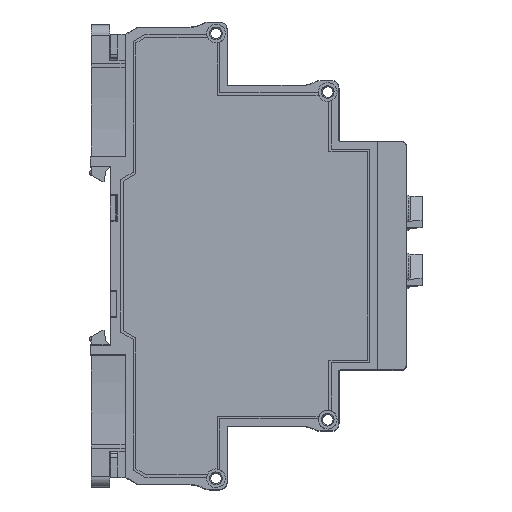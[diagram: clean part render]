
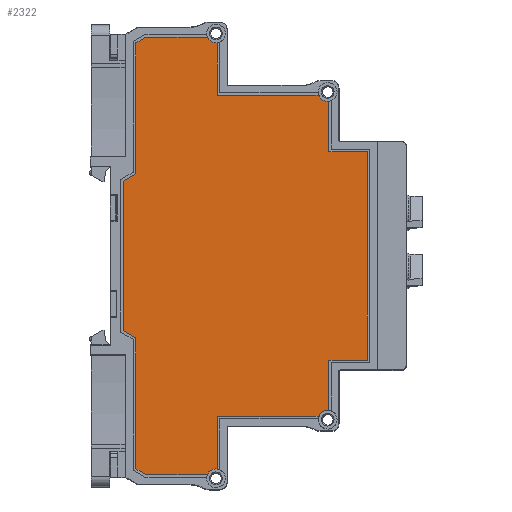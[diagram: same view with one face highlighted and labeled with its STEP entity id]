
A CAD part, top view. The second image highlights one B-rep face of the part: STEP entity #2322.
In plain terms, the highlighted planar face has unit normal (0, 0, 1) as drawn and (1, 0, 0) by its records, which use the part's own axes.
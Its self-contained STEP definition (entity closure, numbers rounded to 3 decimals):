
#2322=ADVANCED_FACE('',(#32780),#32782,.T.);
#32780=FACE_BOUND('',#32781,.T.);
#32781=EDGE_LOOP('',(#56988,#56989,#56990,#56991,#56992,#56993,#56994,#56995,#56996,
#56997,#56998,#56999,#57000,#57001,#57002,#57003,#57004,#57005,#57006,#57007,#57008,
#57009));
#32782=PLANE('',#32783);
#32783=AXIS2_PLACEMENT_3D('',#32784,#32785,#32786);
#32784=CARTESIAN_POINT('',(17.5,0.,0.));
#32785=DIRECTION('',(1.,0.,0.));
#32786=DIRECTION('',(0.,0.,-1.));
#56988=ORIENTED_EDGE('',*,*,#78264,.F.);
#56989=ORIENTED_EDGE('',*,*,#78265,.T.);
#56990=ORIENTED_EDGE('',*,*,#77652,.F.);
#56991=ORIENTED_EDGE('',*,*,#78266,.T.);
#56992=ORIENTED_EDGE('',*,*,#78267,.T.);
#56993=ORIENTED_EDGE('',*,*,#78268,.T.);
#56994=ORIENTED_EDGE('',*,*,#78269,.T.);
#56995=ORIENTED_EDGE('',*,*,#78270,.T.);
#56996=ORIENTED_EDGE('',*,*,#77636,.F.);
#56997=ORIENTED_EDGE('',*,*,#78271,.F.);
#56998=ORIENTED_EDGE('',*,*,#78272,.T.);
#56999=ORIENTED_EDGE('',*,*,#77646,.F.);
#57000=ORIENTED_EDGE('',*,*,#78273,.T.);
#57001=ORIENTED_EDGE('',*,*,#78274,.F.);
#57002=ORIENTED_EDGE('',*,*,#78275,.T.);
#57003=ORIENTED_EDGE('',*,*,#78276,.T.);
#57004=ORIENTED_EDGE('',*,*,#78277,.T.);
#57005=ORIENTED_EDGE('',*,*,#78278,.T.);
#57006=ORIENTED_EDGE('',*,*,#78279,.T.);
#57007=ORIENTED_EDGE('',*,*,#78280,.F.);
#57008=ORIENTED_EDGE('',*,*,#78281,.T.);
#57009=ORIENTED_EDGE('',*,*,#77662,.F.);
#77636=EDGE_CURVE('',#87319,#87304,#87321,.T.);
#77646=EDGE_CURVE('',#87339,#87324,#87341,.T.);
#77652=EDGE_CURVE('',#87351,#87353,#87354,.T.);
#77662=EDGE_CURVE('',#87371,#87373,#87374,.T.);
#78264=EDGE_CURVE('',#88471,#87371,#88472,.T.);
#78265=EDGE_CURVE('',#88471,#87353,#88473,.T.);
#78266=EDGE_CURVE('',#87351,#88474,#88475,.T.);
#78267=EDGE_CURVE('',#88474,#88476,#88477,.T.);
#78268=EDGE_CURVE('',#88476,#88478,#88479,.T.);
#78269=EDGE_CURVE('',#88478,#88480,#88481,.T.);
#78270=EDGE_CURVE('',#88480,#87304,#88482,.T.);
#78271=EDGE_CURVE('',#88483,#87319,#88484,.T.);
#78272=EDGE_CURVE('',#88483,#87324,#88485,.T.);
#78273=EDGE_CURVE('',#87339,#88486,#88487,.T.);
#78274=EDGE_CURVE('',#88488,#88486,#88489,.T.);
#78275=EDGE_CURVE('',#88488,#88490,#88491,.T.);
#78276=EDGE_CURVE('',#88490,#88492,#88493,.T.);
#78277=EDGE_CURVE('',#88492,#88494,#88495,.T.);
#78278=EDGE_CURVE('',#88494,#88496,#88497,.T.);
#78279=EDGE_CURVE('',#88496,#88498,#88499,.T.);
#78280=EDGE_CURVE('',#88500,#88498,#88501,.T.);
#78281=EDGE_CURVE('',#88500,#87373,#88502,.T.);
#87304=VERTEX_POINT('',#103963);
#87319=VERTEX_POINT('',#103996);
#87321=CIRCLE('',#104000,1.85);
#87324=VERTEX_POINT('',#104009);
#87339=VERTEX_POINT('',#104042);
#87341=CIRCLE('',#104046,1.85);
#87351=VERTEX_POINT('',#104070);
#87353=VERTEX_POINT('',#104074);
#87354=CIRCLE('',#104075,1.85);
#87371=VERTEX_POINT('',#104116);
#87373=VERTEX_POINT('',#104120);
#87374=CIRCLE('',#104121,1.85);
#88471=VERTEX_POINT('',#106448);
#88472=LINE('',#106449,#106450);
#88473=LINE('',#106452,#106453);
#88474=VERTEX_POINT('',#106455);
#88475=LINE('',#106456,#106457);
#88476=VERTEX_POINT('',#106459);
#88477=LINE('',#106460,#106461);
#88478=VERTEX_POINT('',#106463);
#88479=LINE('',#106464,#106465);
#88480=VERTEX_POINT('',#106467);
#88481=LINE('',#106468,#106469);
#88482=LINE('',#106471,#106472);
#88483=VERTEX_POINT('',#106474);
#88484=LINE('',#106475,#106476);
#88485=LINE('',#106478,#106479);
#88486=VERTEX_POINT('',#106481);
#88487=LINE('',#106482,#106483);
#88488=VERTEX_POINT('',#106485);
#88489=LINE('',#106486,#106487);
#88490=VERTEX_POINT('',#106489);
#88491=LINE('',#106490,#106491);
#88492=VERTEX_POINT('',#106493);
#88493=LINE('',#106494,#106495);
#88494=VERTEX_POINT('',#106497);
#88495=LINE('',#106498,#106499);
#88496=VERTEX_POINT('',#106501);
#88497=LINE('',#106502,#106503);
#88498=VERTEX_POINT('',#106505);
#88499=LINE('',#106506,#106507);
#88500=VERTEX_POINT('',#106509);
#88501=LINE('',#106510,#106511);
#88502=LINE('',#106513,#106514);
#103963=CARTESIAN_POINT('',(17.5,-30.541,38.985));
#103996=CARTESIAN_POINT('',(17.5,-31.7,37.015));
#104000=AXIS2_PLACEMENT_3D('',#104001,#104002,#104003);
#104001=CARTESIAN_POINT('',(17.5,-32.375,38.738));
#104002=DIRECTION('',(1.,0.,0.));
#104003=DIRECTION('',(0.,0.365,-0.931));
#104009=CARTESIAN_POINT('',(17.5,-42.103,16.897));
#104042=CARTESIAN_POINT('',(17.5,-43.2,14.953));
#104046=AXIS2_PLACEMENT_3D('',#104047,#104048,#104049);
#104047=CARTESIAN_POINT('',(17.5,-43.937,16.65));
#104048=DIRECTION('',(1.,0.,0.));
#104049=DIRECTION('',(0.,0.398,-0.917));
#104070=CARTESIAN_POINT('',(17.5,30.541,38.985));
#104074=CARTESIAN_POINT('',(17.5,31.7,37.015));
#104075=AXIS2_PLACEMENT_3D('',#104076,#104077,#104078);
#104076=CARTESIAN_POINT('',(17.5,32.375,38.738));
#104077=DIRECTION('',(1.,0.,0.));
#104078=DIRECTION('',(0.,-0.991,0.134));
#104116=CARTESIAN_POINT('',(17.5,42.103,16.897));
#104120=CARTESIAN_POINT('',(17.5,43.2,14.953));
#104121=AXIS2_PLACEMENT_3D('',#104122,#104123,#104124);
#104122=CARTESIAN_POINT('',(17.5,43.937,16.65));
#104123=DIRECTION('',(1.,0.,0.));
#104124=DIRECTION('',(0.,-0.991,0.134));
#106448=CARTESIAN_POINT('',(17.5,31.7,16.897));
#106449=CARTESIAN_POINT('',(17.5,31.7,16.897));
#106450=VECTOR('',#106451,1.);
#106451=DIRECTION('',(0.,1.,0.));
#106452=CARTESIAN_POINT('',(17.5,31.7,16.897));
#106453=VECTOR('',#106454,1.);
#106454=DIRECTION('',(0.,0.,1.));
#106455=CARTESIAN_POINT('',(17.5,20.6,38.985));
#106456=CARTESIAN_POINT('',(17.5,30.541,38.985));
#106457=VECTOR('',#106458,1.);
#106458=DIRECTION('',(0.,-1.,0.));
#106459=CARTESIAN_POINT('',(17.5,20.6,46.53));
#106460=CARTESIAN_POINT('',(17.5,20.6,38.985));
#106461=VECTOR('',#106462,1.);
#106462=DIRECTION('',(0.,0.,1.));
#106463=CARTESIAN_POINT('',(17.5,-20.6,46.53));
#106464=CARTESIAN_POINT('',(17.5,20.6,46.53));
#106465=VECTOR('',#106466,1.);
#106466=DIRECTION('',(0.,-1.,0.));
#106467=CARTESIAN_POINT('',(17.5,-20.6,38.985));
#106468=CARTESIAN_POINT('',(17.5,-20.6,46.53));
#106469=VECTOR('',#106470,1.);
#106470=DIRECTION('',(0.,0.,-1.));
#106471=CARTESIAN_POINT('',(17.5,-20.6,38.985));
#106472=VECTOR('',#106473,1.);
#106473=DIRECTION('',(0.,-1.,0.));
#106474=CARTESIAN_POINT('',(17.5,-31.7,16.897));
#106475=CARTESIAN_POINT('',(17.5,-31.7,16.897));
#106476=VECTOR('',#106477,1.);
#106477=DIRECTION('',(0.,0.,1.));
#106478=CARTESIAN_POINT('',(17.5,-31.7,16.897));
#106479=VECTOR('',#106480,1.);
#106480=DIRECTION('',(0.,-1.,0.));
#106481=CARTESIAN_POINT('',(17.5,-43.2,2.761));
#106482=CARTESIAN_POINT('',(17.5,-43.2,14.953));
#106483=VECTOR('',#106484,1.);
#106484=DIRECTION('',(0.,0.,-1.));
#106485=CARTESIAN_POINT('',(17.5,-42.068,0.8));
#106486=CARTESIAN_POINT('',(17.5,-42.068,0.8));
#106487=VECTOR('',#106488,1.);
#106488=DIRECTION('',(0.,-0.5,0.866));
#106489=CARTESIAN_POINT('',(17.5,-16.211,0.8));
#106490=CARTESIAN_POINT('',(17.5,-42.068,0.8));
#106491=VECTOR('',#106492,1.);
#106492=DIRECTION('',(0.,1.,0.));
#106493=CARTESIAN_POINT('',(17.5,-14.768,-1.7));
#106494=CARTESIAN_POINT('',(17.5,-16.211,0.8));
#106495=VECTOR('',#106496,1.);
#106496=DIRECTION('',(0.,0.5,-0.866));
#106497=CARTESIAN_POINT('',(17.5,14.768,-1.7));
#106498=CARTESIAN_POINT('',(17.5,-14.768,-1.7));
#106499=VECTOR('',#106500,1.);
#106500=DIRECTION('',(0.,1.,0.));
#106501=CARTESIAN_POINT('',(17.5,16.211,0.8));
#106502=CARTESIAN_POINT('',(17.5,14.768,-1.7));
#106503=VECTOR('',#106504,1.);
#106504=DIRECTION('',(0.,0.5,0.866));
#106505=CARTESIAN_POINT('',(17.5,42.068,0.8));
#106506=CARTESIAN_POINT('',(17.5,16.211,0.8));
#106507=VECTOR('',#106508,1.);
#106508=DIRECTION('',(0.,1.,0.));
#106509=CARTESIAN_POINT('',(17.5,43.2,2.761));
#106510=CARTESIAN_POINT('',(17.5,43.2,2.761));
#106511=VECTOR('',#106512,1.);
#106512=DIRECTION('',(0.,-0.5,-0.866));
#106513=CARTESIAN_POINT('',(17.5,43.2,2.761));
#106514=VECTOR('',#106515,1.);
#106515=DIRECTION('',(0.,0.,1.));
